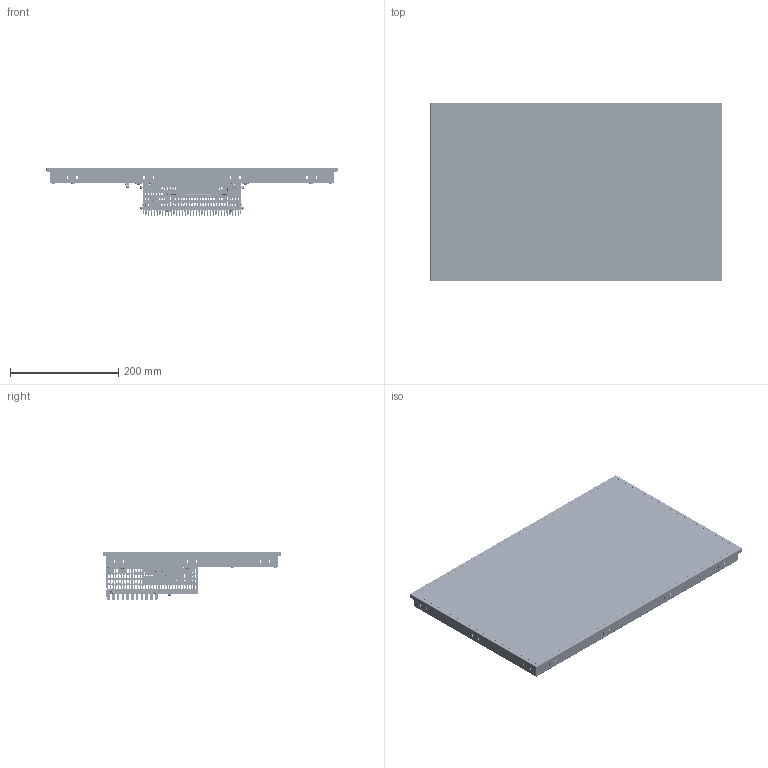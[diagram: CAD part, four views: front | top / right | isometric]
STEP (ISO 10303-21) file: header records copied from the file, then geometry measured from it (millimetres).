
FILE_DESCRIPTION (( 'STEP AP214' ), '1' );
FILE_NAME ('ETT2144 (01-230-2144) 20200807.STEP', '2020-08-07T12:43:07', ( 'Windows-Benutzer' ), ( '' ), 'SwSTEP 2.0', 'SolidWorks 2018', '' );
FILE_SCHEMA (( 'AUTOMOTIVE_DESIGN' ));
Length unit declared in the file: millimetre
Products named in the file (1): ETT2144 (01-230-2144) 20200807
Bounding box: 539 x 331 x 90 mm (x, y, z)
Surface area: 1353939.4 mm2 (no closed solid volume)
Topology: 0 solids, 124 shells, 14808 faces, 40983 edges, 26844 vertices
Faces by surface type: plane 8663, cylinder 5280, cone 495, bspline 220, torus 114, sphere 36
Full cylindrical faces by diameter (mm): 0.2 x1
Entity records: 653098 total; most frequent: CARTESIAN_POINT 106358, ORIENTED_EDGE 81624, DIRECTION 76724, EDGE_CURVE 40971, VECTOR 27482, LINE 27482, VERTEX_POINT 26866, AXIS2_PLACEMENT_3D 24621
